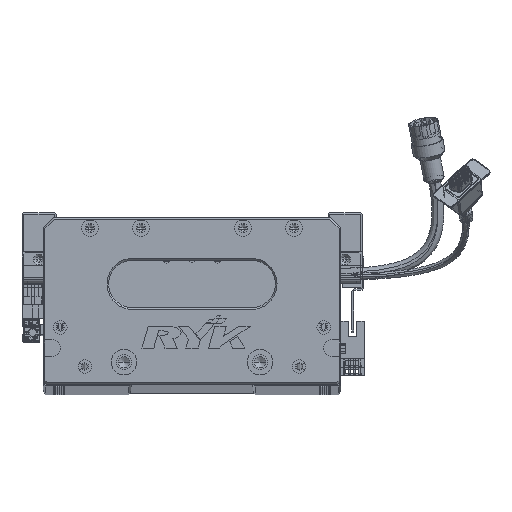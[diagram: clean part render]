
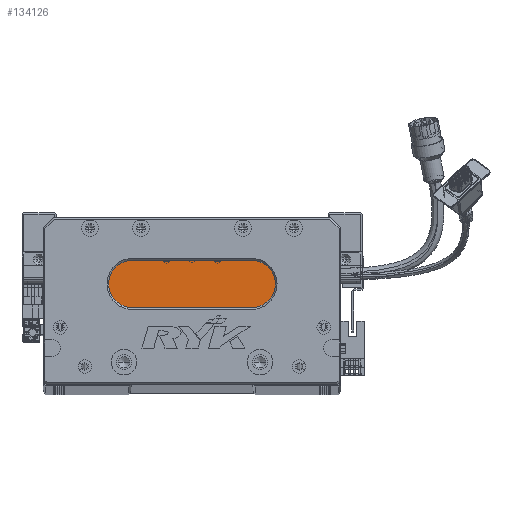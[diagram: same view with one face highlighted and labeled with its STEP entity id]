
A CAD part, top view. The second image highlights one B-rep face of the part: STEP entity #134126.
In plain terms, the highlighted planar face has unit normal (0, 0, 1) as drawn and (0, 0, -1) by its records, which use the part's own axes.
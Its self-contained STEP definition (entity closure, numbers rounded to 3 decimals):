
#1870 = LINE ( 'NONE', #82643, #40671 ) ;
#4110 = EDGE_CURVE ( 'NONE', #7081, #42041, #10995, .T. ) ;
#7081 = VERTEX_POINT ( 'NONE', #13896 ) ;
#10995 = CIRCLE ( 'NONE', #85622, 14. ) ;
#13896 = CARTESIAN_POINT ( 'NONE',  ( 122.5, 73., 18. ) ) ;
#17451 = DIRECTION ( 'NONE',  ( 1., 0., 0. ) ) ;
#18926 = DIRECTION ( 'NONE',  ( -1., 0., 0. ) ) ;
#25922 = DIRECTION ( 'NONE',  ( -1., 0., 0. ) ) ;
#27445 = EDGE_CURVE ( 'NONE', #84022, #7081, #122654, .T. ) ;
#31356 = CARTESIAN_POINT ( 'NONE',  ( 122.5, 45., 18. ) ) ;
#37924 = CARTESIAN_POINT ( 'NONE',  ( 38.5, 59., 18. ) ) ;
#38720 = CARTESIAN_POINT ( 'NONE',  ( 52.5, 45., 18. ) ) ;
#40671 = VECTOR ( 'NONE', #93482, 1000. ) ;
#42041 = VERTEX_POINT ( 'NONE', #31356 ) ;
#45041 = ORIENTED_EDGE ( 'NONE', *, *, #110998, .T. ) ;
#45123 = VERTEX_POINT ( 'NONE', #38720 ) ;
#46621 = DIRECTION ( 'NONE',  ( -1., 0., 0. ) ) ;
#48774 = CARTESIAN_POINT ( 'NONE',  ( 52.5, 73., 18. ) ) ;
#48818 = EDGE_CURVE ( 'NONE', #45123, #78814, #77776, .T. ) ;
#49638 = CARTESIAN_POINT ( 'NONE',  ( 122.5, 59., 18. ) ) ;
#53023 = PLANE ( 'NONE',  #124438 ) ;
#55362 = EDGE_CURVE ( 'NONE', #42041, #45123, #1870, .T. ) ;
#66616 = CARTESIAN_POINT ( 'NONE',  ( 52.5, 59., 18. ) ) ;
#69944 = DIRECTION ( 'NONE',  ( -1., 0., 0. ) ) ;
#70764 = CARTESIAN_POINT ( 'NONE',  ( 122.5, 73., 18. ) ) ;
#77776 = CIRCLE ( 'NONE', #124638, 14. ) ;
#78814 = VERTEX_POINT ( 'NONE', #37924 ) ;
#80345 = DIRECTION ( 'NONE',  ( 0., 0., -1. ) ) ;
#80865 = CARTESIAN_POINT ( 'NONE',  ( 52.5, 59., 18. ) ) ;
#82643 = CARTESIAN_POINT ( 'NONE',  ( 122.5, 45., 18. ) ) ;
#84022 = VERTEX_POINT ( 'NONE', #48774 ) ;
#85622 = AXIS2_PLACEMENT_3D ( 'NONE', #49638, #80345, #69944 ) ;
#87574 = EDGE_LOOP ( 'NONE', ( #101412, #127814, #107722, #45041, #127630 ) ) ;
#87712 = DIRECTION ( 'NONE',  ( 0., 0., -1. ) ) ;
#87885 = AXIS2_PLACEMENT_3D ( 'NONE', #80865, #89430, #18926 ) ;
#89430 = DIRECTION ( 'NONE',  ( 0., 0., -1. ) ) ;
#90287 = VECTOR ( 'NONE', #17451, 1000. ) ;
#93482 = DIRECTION ( 'NONE',  ( -1., 0., 0. ) ) ;
#101412 = ORIENTED_EDGE ( 'NONE', *, *, #4110, .T. ) ;
#106774 = CARTESIAN_POINT ( 'NONE',  ( 122.5, 59., 18. ) ) ;
#107722 = ORIENTED_EDGE ( 'NONE', *, *, #48818, .T. ) ;
#110998 = EDGE_CURVE ( 'NONE', #78814, #84022, #127116, .T. ) ;
#122654 = LINE ( 'NONE', #70764, #90287 ) ;
#123587 = FACE_OUTER_BOUND ( 'NONE', #87574, .T. ) ;
#124438 = AXIS2_PLACEMENT_3D ( 'NONE', #106774, #87712, #46621 ) ;
#124638 = AXIS2_PLACEMENT_3D ( 'NONE', #66616, #129021, #25922 ) ;
#127116 = CIRCLE ( 'NONE', #87885, 14. ) ;
#127630 = ORIENTED_EDGE ( 'NONE', *, *, #27445, .T. ) ;
#127814 = ORIENTED_EDGE ( 'NONE', *, *, #55362, .T. ) ;
#129021 = DIRECTION ( 'NONE',  ( 0., 0., -1. ) ) ;
#134126 = ADVANCED_FACE ( 'NONE', ( #123587 ), #53023, .T. ) ;
